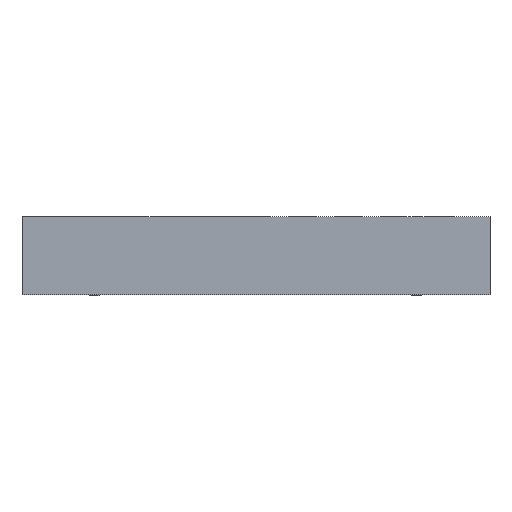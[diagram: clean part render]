
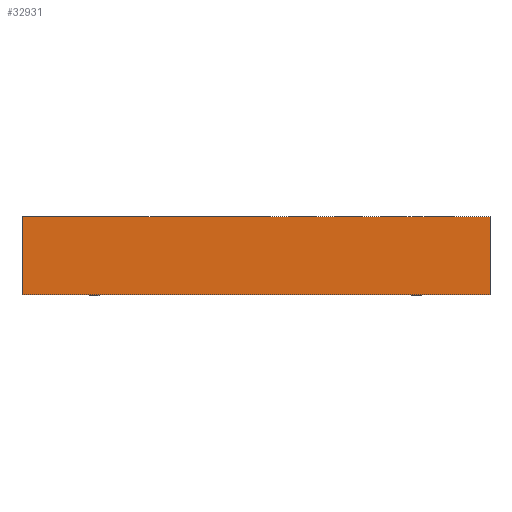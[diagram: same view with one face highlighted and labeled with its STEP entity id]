
A CAD part, left-side view. The second image highlights one B-rep face of the part: STEP entity #32931.
In plain terms, the highlighted planar face has unit normal (-1, 0, 0).
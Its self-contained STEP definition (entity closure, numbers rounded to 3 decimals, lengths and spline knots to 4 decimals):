
#2412=FACE_OUTER_BOUND('',#4464,.T.);
#4464=EDGE_LOOP('',(#29616,#29617,#29618,#29619));
#5424=LINE('',#46823,#9286);
#6707=LINE('',#53222,#10569);
#8328=LINE('',#56640,#12190);
#8329=LINE('',#56641,#12191);
#9286=VECTOR('',#35923,6.);
#10569=VECTOR('',#37826,6.);
#12190=VECTOR('',#41097,1.);
#12191=VECTOR('',#41098,1.);
#13768=VERTEX_POINT('',#46819);
#13770=VERTEX_POINT('',#46822);
#14966=VERTEX_POINT('',#53215);
#14969=VERTEX_POINT('',#53220);
#17248=EDGE_CURVE('',#13770,#13768,#5424,.T.);
#18883=EDGE_CURVE('',#14969,#14966,#6707,.T.);
#20504=EDGE_CURVE('',#13768,#14966,#8328,.T.);
#20505=EDGE_CURVE('',#13770,#14969,#8329,.T.);
#29616=ORIENTED_EDGE('',*,*,#17248,.T.);
#29617=ORIENTED_EDGE('',*,*,#20504,.T.);
#29618=ORIENTED_EDGE('',*,*,#18883,.F.);
#29619=ORIENTED_EDGE('',*,*,#20505,.F.);
#31070=PLANE('',#34369);
#32931=ADVANCED_FACE('',(#2412),#31070,.T.);
#34369=AXIS2_PLACEMENT_3D('',#56639,#41095,#41096);
#35923=DIRECTION('',(0.,-1.,0.));
#37826=DIRECTION('',(0.,-1.,0.));
#41095=DIRECTION('center_axis',(-1.,0.,0.));
#41096=DIRECTION('ref_axis',(0.,-1.,0.));
#41097=DIRECTION('',(0.,0.,1.));
#41098=DIRECTION('',(0.,0.,1.));
#46819=CARTESIAN_POINT('',(-3.,-3.,0.));
#46822=CARTESIAN_POINT('',(-3.,3.,0.));
#46823=CARTESIAN_POINT('',(-3.,3.,0.));
#53215=CARTESIAN_POINT('',(-3.,-3.,1.));
#53220=CARTESIAN_POINT('',(-3.,3.,1.));
#53222=CARTESIAN_POINT('',(-3.,3.,1.));
#56639=CARTESIAN_POINT('Origin',(-3.,3.,0.));
#56640=CARTESIAN_POINT('',(-3.,-3.,0.));
#56641=CARTESIAN_POINT('',(-3.,3.,0.));
